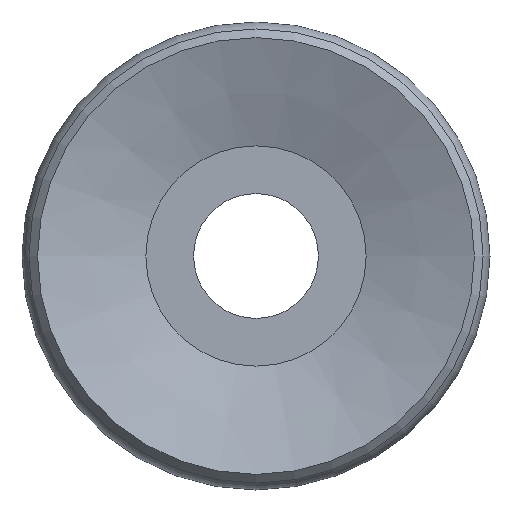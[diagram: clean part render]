
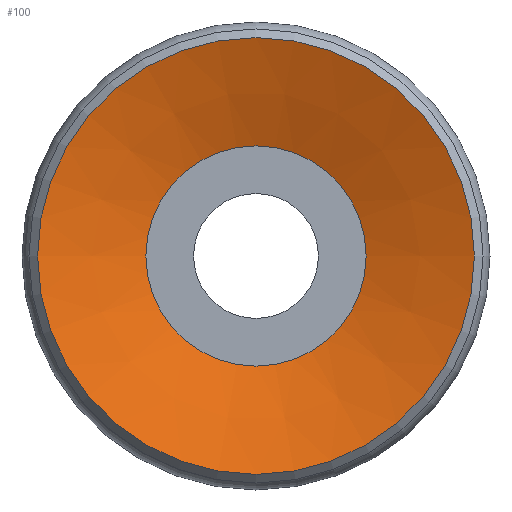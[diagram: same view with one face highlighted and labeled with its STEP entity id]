
A CAD part, front view. The second image highlights one B-rep face of the part: STEP entity #100.
In plain terms, the highlighted conical face has half-angle 70 degrees and reference radius 3.5 mm.
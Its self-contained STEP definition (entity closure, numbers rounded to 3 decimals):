
#100=ADVANCED_FACE('',(#177,#178),#179,.F.);
#177=FACE_BOUND('',#255,.T.);
#178=FACE_OUTER_BOUND('',#256,.T.);
#179=CONICAL_SURFACE('',#257,3.5,1.222);
#255=EDGE_LOOP('',(#383));
#256=EDGE_LOOP('',(#384));
#257=AXIS2_PLACEMENT_3D('',#385,#386,#387);
#383=ORIENTED_EDGE('',*,*,#389,.F.);
#384=ORIENTED_EDGE('',*,*,#413,.T.);
#385=CARTESIAN_POINT('',(0.0,0.0,0.0));
#386=DIRECTION('',(-0.0,-1.0,0.));
#387=DIRECTION('',(0.0,0.,-1.0));
#389=EDGE_CURVE('',#416,#416,#417,.T.);
#413=EDGE_CURVE('',#464,#464,#465,.T.);
#416=VERTEX_POINT('',#468);
#417=CIRCLE('',#469,1.765);
#464=VERTEX_POINT('',#516);
#465=CIRCLE('',#517,3.5);
#468=CARTESIAN_POINT('',(-1.765,0.632,0.0));
#469=AXIS2_PLACEMENT_3D('',#521,#522,#523);
#516=CARTESIAN_POINT('',(-3.5,0.0,0.0));
#517=AXIS2_PLACEMENT_3D('',#593,#594,#595);
#521=CARTESIAN_POINT('',(0.0,0.632,0.0));
#522=DIRECTION('',(0.0,-1.0,0.));
#523=DIRECTION('',(0.0,0.,-1.0));
#593=CARTESIAN_POINT('',(0.0,0.0,0.0));
#594=DIRECTION('',(0.0,-1.0,0.));
#595=DIRECTION('',(0.0,0.,-1.0));
